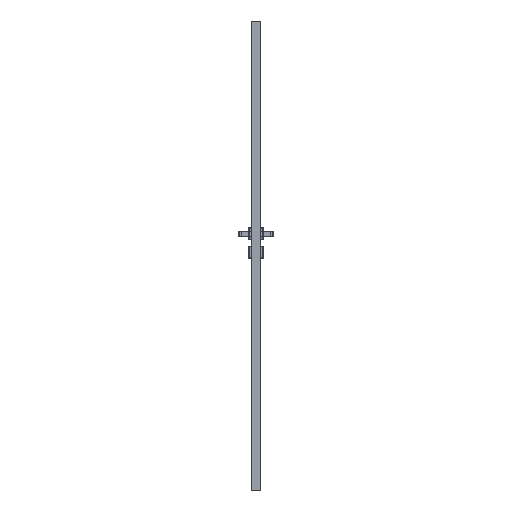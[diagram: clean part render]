
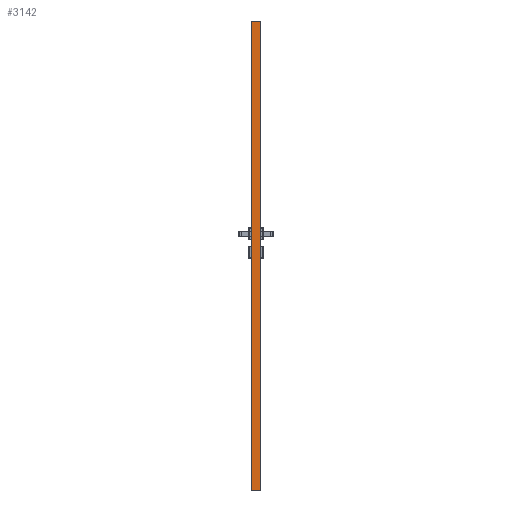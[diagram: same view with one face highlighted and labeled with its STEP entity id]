
A CAD part, left-side view. The second image highlights one B-rep face of the part: STEP entity #3142.
In plain terms, the highlighted planar face has unit normal (-1, 0, 0).
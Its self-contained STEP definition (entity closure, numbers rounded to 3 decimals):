
#3142=ADVANCED_FACE('',(#6283),#4560,.F.);
#4560=PLANE('',#37551);
#6283=FACE_OUTER_BOUND('',#8211,.T.);
#8211=EDGE_LOOP('',(#13667,#13668,#13669,#13670,#13671,#13672));
#13667=ORIENTED_EDGE('',*,*,#25165,.F.);
#13668=ORIENTED_EDGE('',*,*,#25159,.F.);
#13669=ORIENTED_EDGE('',*,*,#24800,.F.);
#13670=ORIENTED_EDGE('',*,*,#25163,.T.);
#13671=ORIENTED_EDGE('',*,*,#25166,.F.);
#13672=ORIENTED_EDGE('',*,*,#24831,.T.);
#20776=VERTEX_POINT('',#58226);
#20777=VERTEX_POINT('',#58228);
#20804=VERTEX_POINT('',#58286);
#20805=VERTEX_POINT('',#58288);
#20987=VERTEX_POINT('',#58927);
#20989=VERTEX_POINT('',#58933);
#24800=EDGE_CURVE('',#20776,#20777,#29170,.T.);
#24831=EDGE_CURVE('',#20805,#20804,#29199,.T.);
#25159=EDGE_CURVE('',#20777,#20987,#29497,.T.);
#25163=EDGE_CURVE('',#20776,#20989,#29501,.T.);
#25165=EDGE_CURVE('',#20987,#20804,#29503,.T.);
#25166=EDGE_CURVE('',#20805,#20989,#29504,.T.);
#29170=LINE('',#58227,#33210);
#29199=LINE('',#58287,#33239);
#29497=LINE('',#58926,#33537);
#29501=LINE('',#58935,#33541);
#29503=LINE('',#58938,#33543);
#29504=LINE('',#58939,#33544);
#33210=VECTOR('',#42303,1.);
#33239=VECTOR('',#42338,1.);
#33537=VECTOR('',#42954,1.);
#33541=VECTOR('',#42960,1.);
#33543=VECTOR('',#42964,1.);
#33544=VECTOR('',#42965,1.);
#37551=AXIS2_PLACEMENT_3D('',#58940,#42966,#42967);
#42303=DIRECTION('',(0.,-1.,0.));
#42338=DIRECTION('',(0.,-1.,0.));
#42954=DIRECTION('',(0.,0.,-1.));
#42960=DIRECTION('',(0.,0.,-1.));
#42964=DIRECTION('',(0.,0.894,-0.447));
#42965=DIRECTION('',(0.,0.894,0.447));
#42966=DIRECTION('',(1.,0.,0.));
#42967=DIRECTION('',(0.,1.,0.));
#58226=CARTESIAN_POINT('',(-309.,0.,2017.));
#58227=CARTESIAN_POINT('',(-309.,-40.,2017.));
#58228=CARTESIAN_POINT('',(-309.,-40.,2017.));
#58286=CARTESIAN_POINT('',(-309.,-38.,0.));
#58287=CARTESIAN_POINT('',(-309.,0.,0.));
#58288=CARTESIAN_POINT('',(-309.,-2.,0.));
#58926=CARTESIAN_POINT('',(-309.,-40.,2250.));
#58927=CARTESIAN_POINT('',(-309.,-40.,1.));
#58933=CARTESIAN_POINT('',(-309.,0.,1.));
#58935=CARTESIAN_POINT('',(-309.,0.,2250.));
#58938=CARTESIAN_POINT('',(-309.,-38.,0.));
#58939=CARTESIAN_POINT('',(-309.,0.,1.));
#58940=CARTESIAN_POINT('',(-309.,0.,2250.));
